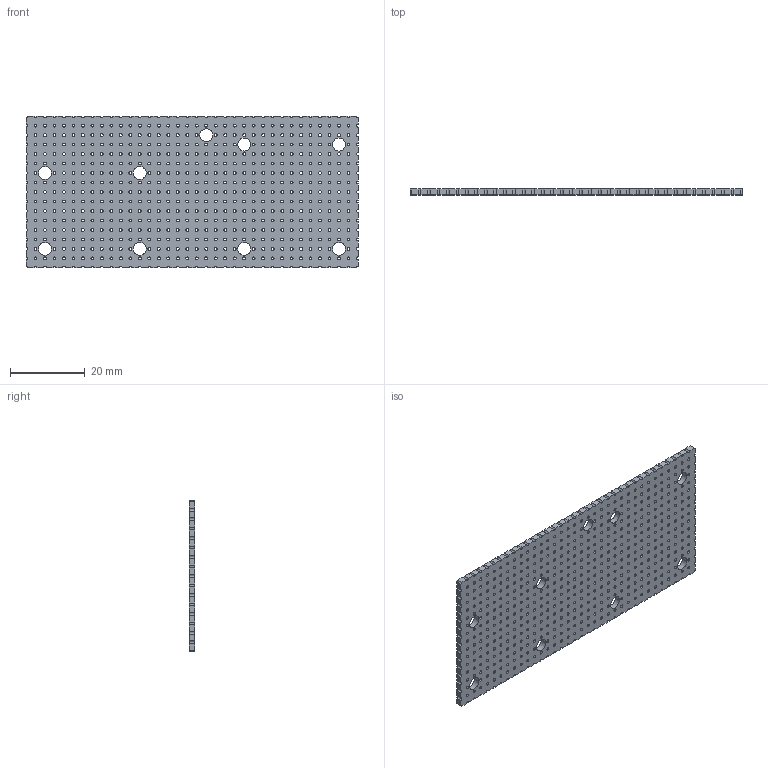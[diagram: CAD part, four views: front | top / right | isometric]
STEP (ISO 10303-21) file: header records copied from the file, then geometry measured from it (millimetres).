
FILE_DESCRIPTION (( 'STEP AP203' ), '1' );
FILE_NAME ('Perf Board.step', '2015-03-14T23:35:52', ( '' ), ( '' ), 'SwSTEP 2.0', 'SolidWorks 2013', '' );
FILE_SCHEMA (( 'CONFIG_CONTROL_DESIGN' ));
Length unit declared in the file: inch
Products named in the file (1): Perf Board
Bounding box: 88.9 x 1.6 x 40.64 mm (x, y, z)
Volume: 5243.6 mm3; surface area: 9111.4 mm2
Topology: 1 solids, 1 shells, 716 faces, 2142 edges, 1428 vertices
Faces by surface type: cylinder 612, plane 104
Full cylindrical faces by diameter (mm): 0.762 x501, 3.454 x9
Entity records: 24379 total; most frequent: DIRECTION 4290, CARTESIAN_POINT 3777, ORIENTED_EDGE 3264, EDGE_LOOP 2246, AXIS2_PLACEMENT_3D 1941, EDGE_CURVE 1632, VERTEX_POINT 1428, FACE_OUTER_BOUND 1226
